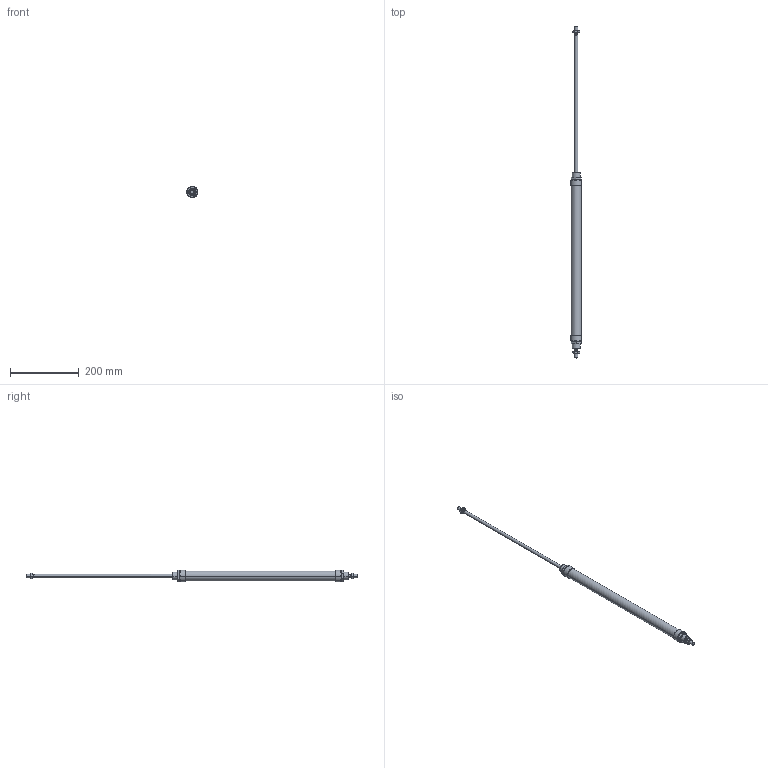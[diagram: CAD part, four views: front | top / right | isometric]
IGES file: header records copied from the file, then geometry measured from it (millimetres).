
Global section: file name: No Iges File Name specified; native system: AutoDesk Inventor R6.0; preprocessor: AutoDesk Inventor Iges Exporter R6.0; author: No Author specified; organization: No Organization specified; date: 20030403.072552; units: millimetre
Bounding box: 31.5 x 969 x 34.64 mm (x, y, z)
Volume: 374638.1 mm3; surface area: 100805.9 mm2
Topology: 6 solids, 6 shells, 184 faces, 396 edges, 232 vertices
Faces by surface type: cone 68, plane 60, bspline 30, cylinder 20, revolution 6
